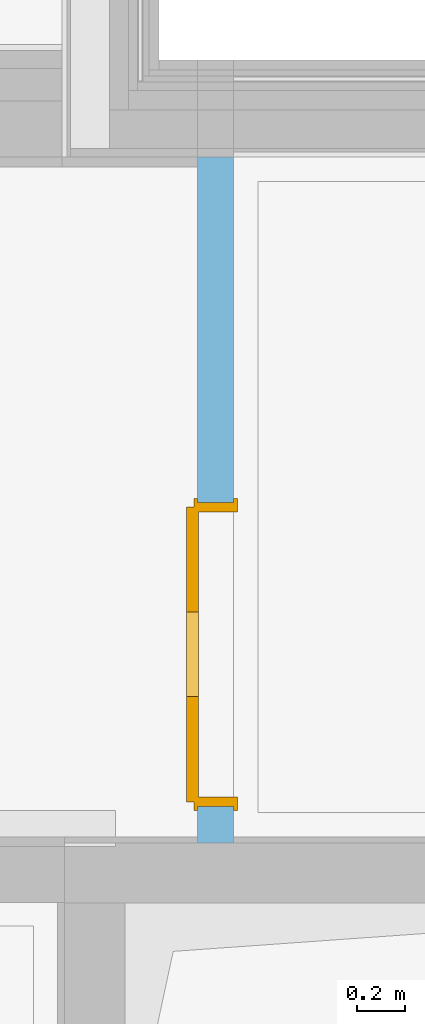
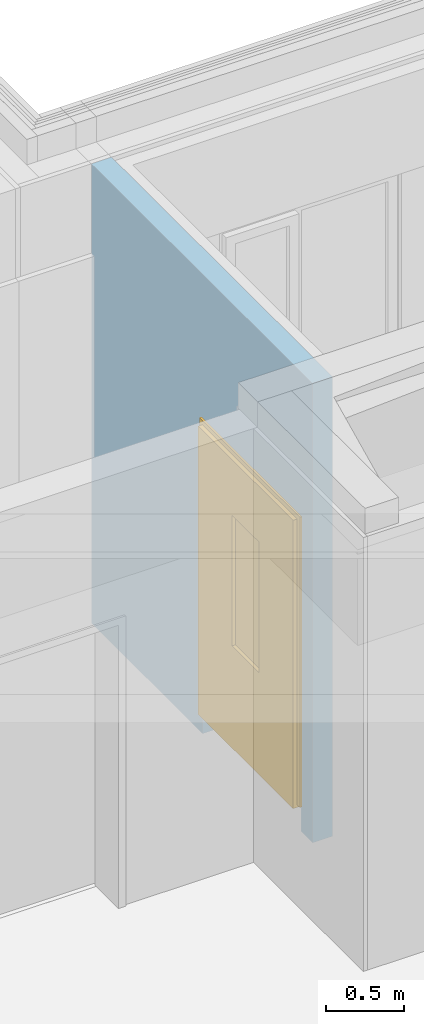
# One storey, part 92 of 207: 1 door, 1 opening, plus 1 element that does not belong to this part.
"""IFC4 building model written with IfcOpenShell, lengths in metres."""

import ifcopenshell
import ifcopenshell.guid

model = None  # the IFC model being written
_history = None  # IfcOwnerHistory: only IFC2X3 demands one
_inside = {}  # id of a spatial element -> (the spatial element, [elements in it])
_under = {}  # id of a project, library or spatial element -> (it, [spatial elements below it])
_declared = {}  # id of a project -> (the project, [libraries it declares])
_typed = {}  # id of a type object -> (the type object, [elements of that type])
_made_of = {}  # id of a material, layer set ... -> (it, [elements and type objects made of it])


def new_model(schema):
    """Start an empty IFC model of exactly this schema.

    Asked for "IFC4X3", IfcOpenShell would pick the latest addendum, in which some entities
    have other attributes; the version numbers below select the first issue.
    IFC2X3 requires an IfcOwnerHistory on every rooted entity: one is made here for all.
    """
    global model, _history
    if schema == "IFC4X3":
        model = ifcopenshell.file(schema_version=(4, 3, 0, 0))
    else:
        model = ifcopenshell.file(schema=schema)
    _inside.clear()
    _under.clear()
    _declared.clear()
    _typed.clear()
    _made_of.clear()
    _history = None
    if model.schema == "IFC2X3":
        org = make("IfcOrganization", Name="unknown")
        user = make(
            "IfcPersonAndOrganization",
            ThePerson=make("IfcPerson", FamilyName="unknown"),
            TheOrganization=org,
        )
        app = make(
            "IfcApplication",
            ApplicationDeveloper=org,
            Version="unknown",
            ApplicationFullName="unknown",
            ApplicationIdentifier="unknown",
        )
        _history = make(
            "IfcOwnerHistory",
            OwningUser=user,
            OwningApplication=app,
            ChangeAction="ADDED",
            CreationDate=0,
        )
    return model


def make(cls, **values):
    """One entity of the class cls with the attributes given. An attribute that is None is left unset."""
    return model.create_entity(
        cls, **{name: value for name, value in values.items() if value is not None}
    )


def entity(cls, *values):
    """Any entity or typed value of the class cls, its attributes in the order of the schema. None: left unset."""
    e = model.create_entity(cls)
    for i, value in enumerate(values):
        if value is not None:
            e[i] = value
    return e


def rooted(cls, **values):
    """An entity with a GlobalId (a new one), such as an element, a storey or a relation."""
    return make(cls, GlobalId=ifcopenshell.guid.new(), OwnerHistory=_history, **values)


def si_unit(unit_type, name, prefix=None):
    """IfcSIUnit, for example si_unit("LENGTHUNIT", "METRE", prefix="MILLI")."""
    return make("IfcSIUnit", UnitType=unit_type, Prefix=prefix, Name=name)


def converted_unit(unit_type, name, factor, base, dimensions=None, offset=None):
    """IfcConversionBasedUnit, such as the inch: factor (a typed value) times the base unit."""
    return make(
        "IfcConversionBasedUnit"
        if offset is None
        else "IfcConversionBasedUnitWithOffset",
        ConversionOffset=offset,
        Dimensions=None
        if dimensions is None
        else entity("IfcDimensionalExponents", *dimensions),
        UnitType=unit_type,
        Name=name,
        ConversionFactor=make(
            "IfcMeasureWithUnit", ValueComponent=factor, UnitComponent=base
        ),
    )


def derived_unit(unit_type, elements):
    """IfcDerivedUnit: a product of units, each with its exponent."""
    return make(
        "IfcDerivedUnit",
        Elements=[
            make("IfcDerivedUnitElement", Unit=unit, Exponent=power)
            for unit, power in elements
        ],
        UnitType=unit_type,
    )


def assignment(units):
    """IfcUnitAssignment: the units of a project."""
    return None if units is None else make("IfcUnitAssignment", Units=units)


def point(xyz):
    """IfcCartesianPoint."""
    return None if xyz is None else make("IfcCartesianPoint", Coordinates=xyz)


def direction(xyz):
    """IfcDirection."""
    return None if xyz is None else make("IfcDirection", DirectionRatios=xyz)


def frame(location, z_axis=None, x_axis=None):
    """IfcAxis2Placement3D, a coordinate frame: its origin and axes. An axis left out is left unset."""
    return make(
        "IfcAxis2Placement3D",
        Location=point(location),
        Axis=direction(z_axis),
        RefDirection=direction(x_axis),
    )


def frame_2d(location, x_axis=None):
    """IfcAxis2Placement2D, a coordinate frame in the plane: its origin and x axis."""
    return make(
        "IfcAxis2Placement2D", Location=point(location), RefDirection=direction(x_axis)
    )


def origin():
    """The frame at (0, 0, 0) with its axes left unset."""
    return frame((0.0, 0.0, 0.0))


def origin_with_axes():
    """The frame at (0, 0, 0) with the z axis (0, 0, 1) and the x axis (1, 0, 0) written out."""
    return frame((0.0, 0.0, 0.0), z_axis=(0.0, 0.0, 1.0), x_axis=(1.0, 0.0, 0.0))


def place(relative_to, where):
    """IfcLocalPlacement: puts the frame where relative to a parent placement (None: the world)."""
    return make(
        "IfcLocalPlacement", PlacementRelTo=relative_to, RelativePlacement=where
    )


def context(
    kind, dimensions, precision=None, world=None, true_north=None, identifier=None
):
    """IfcGeometricRepresentationContext, for example the 3D "Model" context."""
    return make(
        "IfcGeometricRepresentationContext",
        ContextIdentifier=identifier,
        ContextType=kind,
        CoordinateSpaceDimension=dimensions,
        Precision=precision,
        WorldCoordinateSystem=world,
        TrueNorth=true_north,
    )


def subcontext(parent, identifier, kind, view, scale=None):
    """IfcGeometricRepresentationSubContext, for example "Body" below "Model"."""
    return make(
        "IfcGeometricRepresentationSubContext",
        ContextIdentifier=identifier,
        ContextType=kind,
        ParentContext=parent,
        TargetScale=scale,
        TargetView=view,
    )


def project(units=None, contexts=None):
    """IfcProject with its units and contexts."""
    return rooted(
        "IfcProject",
        Name="project",
        RepresentationContexts=contexts,
        UnitsInContext=assignment(units),
    )


def spatial(cls, under=None, at=None, **own):
    """A site, building, storey or space (cls), placed at a placement, below another one or the project."""
    s = rooted(cls, ObjectPlacement=at, **own)
    if under is not None:
        _under.setdefault(under.id(), (under, []))[1].append(s)
    return s


def polyline(points):
    """IfcPolyline through the points."""
    return make("IfcPolyline", Points=[point(p) for p in points])


def profile(cls, at=None, kind="AREA", **sizes):
    """A parametric profile (cls). Its sizes go by their IFC names, for example OverallWidth=200.0."""
    return make(cls, ProfileType=kind, Position=at, **sizes)


def rectangle(**sizes):
    """IfcRectangleProfileDef."""
    return profile("IfcRectangleProfileDef", **sizes)


def outline(outer, holes=None, kind="AREA"):
    """IfcArbitraryClosedProfileDef: a profile drawn as a closed curve; with holes, ...WithVoids."""
    if holes is None:
        return make("IfcArbitraryClosedProfileDef", ProfileType=kind, OuterCurve=outer)
    return make(
        "IfcArbitraryProfileDefWithVoids",
        ProfileType=kind,
        OuterCurve=outer,
        InnerCurves=holes,
    )


def extrude(swept, where, along, depth):
    """IfcExtrudedAreaSolid: the profile swept, set in the frame where, extruded along a direction by depth."""
    return make(
        "IfcExtrudedAreaSolid",
        SweptArea=swept,
        Position=where,
        ExtrudedDirection=direction(along),
        Depth=depth,
    )


def faces_of(points, faces, orient=None, outer=None):
    """IfcFace entities. A face is a list of loops; a loop is a list of indices into points, from 0.

    orient and outer hold one flag for each loop. By default every Orientation is true, the
    first loop of a face is its IfcFaceOuterBound and the others are IfcFaceBound.
    """
    made = []
    for i, loops in enumerate(faces):
        bounds = []
        for j, loop in enumerate(loops):
            is_outer = j == 0 if outer is None else outer[i][j]
            bounds.append(
                make(
                    "IfcFaceOuterBound" if is_outer else "IfcFaceBound",
                    Bound=make("IfcPolyLoop", Polygon=[points[k] for k in loop]),
                    Orientation=True if orient is None else orient[i][j],
                )
            )
        made.append(make("IfcFace", Bounds=bounds))
    return made


def closed_shell(faces, orient=None, outer=None):
    """The faces of one IfcClosedShell. faceted_brep and surface_model build it on their shared points."""
    return ("IfcClosedShell", faces, orient, outer)


def open_shell(faces, orient=None, outer=None):
    """The faces of one IfcOpenShell. surface_model builds it on its shared points."""
    return ("IfcOpenShell", faces, orient, outer)


def faceted_brep(points, faces, orient=None, outer=None, voids=None):
    """IfcFacetedBrep: a solid bounded by flat faces; with voids (closed shells), ...WithVoids."""
    shared = [point(p) for p in points]
    hull = make("IfcClosedShell", CfsFaces=faces_of(shared, faces, orient, outer))
    if voids is None:
        return make("IfcFacetedBrep", Outer=hull)
    return make(
        "IfcFacetedBrepWithVoids",
        Outer=hull,
        Voids=[
            make(cls, CfsFaces=faces_of(shared, fs, o, b)) for cls, fs, o, b in voids
        ],
    )


def surface_model(cls, points, shells):
    """IfcFaceBasedSurfaceModel or IfcShellBasedSurfaceModel (cls): surfaces that need not close."""
    shared = [point(p) for p in points]
    made = [make(c, CfsFaces=faces_of(shared, fs, o, b)) for c, fs, o, b in shells]
    if cls == "IfcFaceBasedSurfaceModel":
        return make(cls, FbsmFaces=made)
    return make(cls, SbsmBoundary=made)


def shape(context_of_items, identifier, shape_type, items):
    """IfcShapeRepresentation: the items that make up one representation, for example the "Body"."""
    return make(
        "IfcShapeRepresentation",
        ContextOfItems=context_of_items,
        RepresentationIdentifier=identifier,
        RepresentationType=shape_type,
        Items=items,
    )


def source(mapping_origin, context_of_items, identifier, shape_type, items):
    """IfcRepresentationMap: a shape defined once, which mapped items show again and again."""
    return make(
        "IfcRepresentationMap",
        MappingOrigin=mapping_origin,
        MappedRepresentation=shape(context_of_items, identifier, shape_type, items),
    )


def transform(
    local_origin,
    x_axis=None,
    y_axis=None,
    z_axis=None,
    scale=None,
    scale2=None,
    scale3=None,
    uniform=True,
):
    """IfcCartesianTransformationOperator3D, or its non-uniform kind. x_axis, y_axis, z_axis: its Axis1, 2, 3."""
    if uniform:
        return make(
            "IfcCartesianTransformationOperator3D",
            Axis1=direction(x_axis),
            Axis2=direction(y_axis),
            LocalOrigin=point(local_origin),
            Scale=scale,
            Axis3=direction(z_axis),
        )
    return make(
        "IfcCartesianTransformationOperator3DnonUniform",
        Axis1=direction(x_axis),
        Axis2=direction(y_axis),
        LocalOrigin=point(local_origin),
        Scale=scale,
        Axis3=direction(z_axis),
        Scale2=scale2,
        Scale3=scale3,
    )


def mapped(mapping_source, mapping_target):
    """IfcMappedItem: shows the shape of a source again, moved by a transform."""
    return make(
        "IfcMappedItem", MappingSource=mapping_source, MappingTarget=mapping_target
    )


def material(Name=None, Category=None):
    """IfcMaterial."""
    return make("IfcMaterial", Name=Name, Category=Category)


def made_of(thing, what):
    """Note that an element or type object is made of a material, layer set ...; save() writes the relation."""
    if what is not None:
        _made_of.setdefault(what.id(), (what, []))[1].append(thing)
    return thing


def type_object(cls, material=None, **own):
    """A type object (cls), such as IfcWallType, which elements share."""
    return made_of(rooted(cls, **own), material)


def element(
    cls,
    number,
    at=None,
    inside=None,
    cuts=None,
    type_object=None,
    material=None,
    context=None,
    identifier="Body",
    shape_type=None,
    held_by="IfcProductDefinitionShape",
    body=None,
    shapes=None,
    **own,
):
    """One element of the class cls, such as IfcWall. Its Tag is "e" and its number.

    at: its placement. inside: the storey or other place that contains it. cuts: it is an
    opening in that element (IfcRelVoidsElement). A single representation is given by context,
    identifier, shape_type and body (its items); several are given by shapes. held_by: the class
    of the entity that holds the representations. save() writes the other relations.
    """
    e = rooted(cls, Tag="e%d" % number, ObjectPlacement=at, **own)
    if body is not None:
        shapes = [shape(context, identifier, shape_type, body)]
    if shapes is not None:
        e.Representation = make(held_by, Representations=shapes)
    if inside is not None:
        _inside.setdefault(inside.id(), (inside, []))[1].append(e)
    if cuts is not None:
        rooted(
            "IfcRelVoidsElement", RelatingBuildingElement=cuts, RelatedOpeningElement=e
        )
    if type_object is not None:
        _typed.setdefault(type_object.id(), (type_object, []))[1].append(e)
    return made_of(e, material)


def fill(opening, filler):
    """IfcRelFillsElement: the door or window that sits in an opening."""
    return rooted(
        "IfcRelFillsElement",
        RelatingOpeningElement=opening,
        RelatedBuildingElement=filler,
    )


def aggregate(whole, parts):
    """IfcRelAggregates: a whole, such as a stair, and the parts it consists of."""
    return rooted("IfcRelAggregates", RelatingObject=whole, RelatedObjects=parts)


def save(model, path):
    """Write the relations noted so far, then the file.

    IfcRelAggregates (storeys below a building ...), IfcRelContainedInSpatialStructure (elements
    in a storey), IfcRelDefinesByType, IfcRelAssociatesMaterial and IfcRelDeclares: one each for
    every whole, place, type object, material and project.
    """
    for whole, parts in _under.values():
        aggregate(whole, parts)
    for where, things in _inside.values():
        rooted(
            "IfcRelContainedInSpatialStructure",
            RelatedElements=things,
            RelatingStructure=where,
        )
    for kind, things in _typed.values():
        rooted("IfcRelDefinesByType", RelatedObjects=things, RelatingType=kind)
    for what, things in _made_of.values():
        rooted("IfcRelAssociatesMaterial", RelatedObjects=things, RelatingMaterial=what)
    for by, libraries in _declared.values():
        rooted("IfcRelDeclares", RelatingContext=by, RelatedDefinitions=libraries)
    model.write(path)


model = new_model("IFC4")

# Units and contexts
model_context = context("Model", 3, precision=1e-05, world=origin())
body_context = subcontext(model_context, "Body", "Model", "MODEL_VIEW")
ifc_project = project(units=[si_unit("LENGTHUNIT", "METRE"), si_unit("AREAUNIT", "SQUARE_METRE"), si_unit("VOLUMEUNIT", "CUBIC_METRE"), si_unit("MASSUNIT", "GRAM", prefix="KILO"), converted_unit("PLANEANGLEUNIT", "DEGREE", entity("IfcPlaneAngleMeasure", 0.0174532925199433), si_unit("PLANEANGLEUNIT", "RADIAN"), dimensions=[0, 0, 0, 0, 0, 0, 0]), derived_unit("THERMALTRANSMITTANCEUNIT", [(si_unit("POWERUNIT", "WATT"), 1), (si_unit("THERMODYNAMICTEMPERATUREUNIT", "KELVIN"), -1), (si_unit("LENGTHUNIT", "METRE"), -2)]), derived_unit("VOLUMETRICFLOWRATEUNIT", [(si_unit("LENGTHUNIT", "METRE"), 3), (converted_unit("TIMEUNIT", "hour", entity("IfcTimeMeasure", 3600.0), si_unit("TIMEUNIT", "SECOND"), dimensions=[0, 0, 1, 0, 0, 0, 0]), -1), (si_unit("LENGTHUNIT", "METRE"), -1)])], contexts=[model_context])

# Site, building, storey
site_placement = place(None, origin())
site = spatial("IfcSite", under=ifc_project, at=site_placement, Name="Psychiatrie Neubau Wunstorf", CompositionType="ELEMENT")
building_placement = place(site_placement, origin())
building = spatial("IfcBuilding", under=site, at=building_placement, Name="Neubau H2 Stationsgebäude", CompositionType="ELEMENT")
storey_placement = place(building_placement, frame((0.0, 0.0, -0.2)))
storey = spatial("IfcBuildingStorey", under=building, at=storey_placement, Name="H2 Ebene 0", CompositionType="ELEMENT", Elevation=-0.2)

# Wall, opening, door
ifc_material_1 = material(Name="WI-LB")
wall_placement = place(storey_placement, frame((44.65, 7.27499969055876, 0.0), z_axis=(0.0, 0.0, 1.0), x_axis=(0.0, 1.0, 0.0)))
wall = element("IfcWall", 1, at=wall_placement, inside=storey, material=ifc_material_1, context=body_context, shape_type="SweptSolid", body=[
    extrude(rectangle(XDim=2.83900000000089, YDim=0.15, at=frame_2d((1.41950000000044, 0.075), x_axis=(1.0, 0.0))), origin_with_axes(), (0.0, 0.0, 1.0), 3.6),
])
opening_placement = place(wall_placement, frame((0.15, 0.0, 0.0), z_axis=(0.0, 1.0, 0.0), x_axis=(0.0, 0.0, 1.0)))
opening = element("IfcOpeningElement", 2, at=opening_placement, cuts=wall, Name="Türöffnung", ObjectType="Opening", context=body_context, shape_type="SweptSolid", body=[
    extrude(outline(polyline([(2.46, 1.26), (2.46, 0.0), (0.0, 0.0), (0.0, 1.26), (2.46, 1.26)])), origin_with_axes(), (0.0, 0.0, 1.0), 0.15),
])
ifc_material_2 = material(Name="TI-1F-UZ-D")
door_type = type_object("IfcDoorType", Name="SMT", OperationType="SINGLE_SWING_RIGHT", ParameterTakesPrecedence=False, PredefinedType="DOOR")
shared_shape_1 = source(origin_with_axes(), body_context, "Body", "Brep", [
    faceted_brep([(1.38499999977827, 0.12499999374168, 0.0), (1.28499999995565, 0.12499999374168, 0.0), (1.28499999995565, 0.0250000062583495, 0.0), (1.38499999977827, 0.0250000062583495, 0.0), (1.38499999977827, 0.0250000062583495, 3.6), (1.28499999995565, 0.0250000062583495, 3.6), (1.28499999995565, 0.12499999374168, 3.6), (1.38499999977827, 0.12499999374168, 3.6)], [[[0, 1, 2, 3]], [[4, 5, 6, 7]], [[3, 4, 7, 0]], [[2, 5, 4, 3]], [[1, 6, 5, 2]], [[0, 7, 6, 1]]], orient=[[False], [False], [False], [False], [False], [False]]),
    faceted_brep([(-0.0249999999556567, 0.12499999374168, 0.0), (-0.124999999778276, 0.12499999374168, 0.0), (-0.124999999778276, 0.0250000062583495, 0.0), (-0.0249999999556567, 0.0250000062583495, 0.0), (-0.0249999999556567, 0.0250000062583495, 3.6), (-0.124999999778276, 0.0250000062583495, 3.6), (-0.124999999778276, 0.12499999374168, 3.6), (-0.0249999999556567, 0.12499999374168, 3.6)], [[[0, 1, 2, 3]], [[4, 5, 6, 7]], [[3, 4, 7, 0]], [[2, 5, 4, 3]], [[1, 6, 5, 2]], [[0, 7, 6, 1]]], orient=[[False], [False], [False], [False], [False], [False]]),
    faceted_brep([(1.28499999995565, 0.12499999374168, 2.485), (-0.0249999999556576, 0.12499999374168, 2.485), (-0.0249999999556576, 0.0250000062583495, 2.485), (1.28499999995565, 0.0250000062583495, 2.485), (1.28499999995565, 0.0250000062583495, 2.585), (-0.0249999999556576, 0.0250000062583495, 2.585), (-0.0249999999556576, 0.12499999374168, 2.585), (1.28499999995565, 0.12499999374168, 2.585)], [[[0, 1, 2, 3]], [[4, 5, 6, 7]], [[3, 4, 7, 0]], [[2, 5, 4, 3]], [[1, 6, 5, 2]], [[0, 7, 6, 1]]], orient=[[False], [False], [False], [False], [False], [False]]),
])
shared_shape_2 = source(origin_with_axes(), body_context, "Body", "SurfaceModel", [
    surface_model("IfcShellBasedSurfaceModel", [(0.0, -0.0149999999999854, 2.46), (0.0399999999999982, -0.0149999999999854, 2.46), (0.0399999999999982, -0.0149999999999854, 0.2), (0.0, -0.0149999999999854, 0.2), (0.0, 0.165000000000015, 0.2), (0.0399999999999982, 0.165000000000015, 0.2), (0.0399999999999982, 0.165000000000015, 2.46), (0.0, 0.165000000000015, 2.46)], [closed_shell([[[0, 1, 2, 3]], [[4, 5, 6, 7]], [[3, 4, 7, 0]], [[2, 5, 4, 3]], [[1, 6, 5, 2]], [[0, 7, 6, 1]]], orient=[[False], [False], [False], [False], [False], [False]])]),
    surface_model("IfcShellBasedSurfaceModel", [(0.0, -0.0149999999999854, 2.475), (0.0, -0.0149999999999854, 0.2), (-0.0150000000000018, -0.0149999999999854, 0.2), (-0.0150000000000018, -0.0149999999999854, 2.475), (0.0, 0.0, 0.2), (0.0, 0.0, 2.475), (-0.0150000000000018, 0.0, 2.475), (-0.0150000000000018, 0.0, 0.2)], [closed_shell([[[0, 1, 2, 3]], [[4, 5, 6, 7]], [[1, 0, 5, 4]], [[2, 1, 4, 7]], [[3, 2, 7, 6]], [[0, 3, 6, 5]]], orient=[[False], [False], [False], [False], [False], [False]])]),
    surface_model("IfcShellBasedSurfaceModel", [(0.0, 0.150000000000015, 2.475), (0.0, 0.150000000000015, 0.2), (-0.0150000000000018, 0.150000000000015, 0.2), (-0.0150000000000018, 0.150000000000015, 2.475), (0.0, 0.165000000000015, 0.2), (0.0, 0.165000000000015, 2.475), (-0.0150000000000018, 0.165000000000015, 2.475), (-0.0150000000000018, 0.165000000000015, 0.2)], [closed_shell([[[0, 1, 2, 3]], [[4, 5, 6, 7]], [[1, 0, 5, 4]], [[2, 1, 4, 7]], [[3, 2, 7, 6]], [[0, 3, 6, 5]]], orient=[[False], [False], [False], [False], [False], [False]])]),
    surface_model("IfcShellBasedSurfaceModel", [(1.22, -0.0149999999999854, 2.46), (1.26, -0.0149999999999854, 2.46), (1.26, -0.0149999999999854, 0.2), (1.22, -0.0149999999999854, 0.2), (1.22, 0.165000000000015, 0.2), (1.26, 0.165000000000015, 0.2), (1.26, 0.165000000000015, 2.46), (1.22, 0.165000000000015, 2.46)], [closed_shell([[[0, 1, 2, 3]], [[4, 5, 6, 7]], [[3, 4, 7, 0]], [[2, 5, 4, 3]], [[1, 6, 5, 2]], [[0, 7, 6, 1]]], orient=[[False], [False], [False], [False], [False], [False]])]),
    surface_model("IfcShellBasedSurfaceModel", [(1.26, -0.0149999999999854, 2.475), (1.275, -0.0149999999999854, 2.475), (1.275, -0.0149999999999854, 0.2), (1.26, -0.0149999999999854, 0.2), (1.26, 0.0, 0.2), (1.275, 0.0, 0.2), (1.275, 0.0, 2.475), (1.26, 0.0, 2.475)], [closed_shell([[[0, 1, 2, 3]], [[4, 5, 6, 7]], [[3, 4, 7, 0]], [[2, 5, 4, 3]], [[1, 6, 5, 2]], [[0, 7, 6, 1]]], orient=[[False], [False], [False], [False], [False], [False]])]),
    surface_model("IfcShellBasedSurfaceModel", [(1.26, 0.150000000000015, 2.475), (1.275, 0.150000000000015, 2.475), (1.275, 0.150000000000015, 0.2), (1.26, 0.150000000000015, 0.2), (1.26, 0.165000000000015, 0.2), (1.275, 0.165000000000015, 0.2), (1.275, 0.165000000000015, 2.475), (1.26, 0.165000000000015, 2.475)], [closed_shell([[[0, 1, 2, 3]], [[4, 5, 6, 7]], [[3, 4, 7, 0]], [[2, 5, 4, 3]], [[1, 6, 5, 2]], [[0, 7, 6, 1]]], orient=[[False], [False], [False], [False], [False], [False]])]),
    surface_model("IfcShellBasedSurfaceModel", [(0.0399999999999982, -0.0149999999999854, 2.46), (1.22, -0.0149999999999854, 2.46), (1.22, -0.0149999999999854, 2.42), (0.0399999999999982, -0.0149999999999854, 2.42), (0.0399999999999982, 0.165000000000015, 2.42), (1.22, 0.165000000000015, 2.42), (1.22, 0.165000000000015, 2.46), (0.0399999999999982, 0.165000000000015, 2.46)], [closed_shell([[[0, 1, 2, 3]], [[4, 5, 6, 7]], [[3, 4, 7, 0]], [[2, 5, 4, 3]], [[1, 6, 5, 2]], [[0, 7, 6, 1]]], orient=[[False], [False], [False], [False], [False], [False]])]),
    surface_model("IfcShellBasedSurfaceModel", [(0.0, -0.0149999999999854, 2.475), (1.26, -0.0149999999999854, 2.475), (1.26, -0.0149999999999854, 2.46), (0.0, -0.0149999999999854, 2.46), (0.0, 0.0, 2.46), (1.26, 0.0, 2.46), (1.26, 0.0, 2.475), (0.0, 0.0, 2.475)], [closed_shell([[[0, 1, 2, 3]], [[4, 5, 6, 7]], [[3, 4, 7, 0]], [[2, 5, 4, 3]], [[1, 6, 5, 2]], [[0, 7, 6, 1]]], orient=[[False], [False], [False], [False], [False], [False]])]),
    surface_model("IfcShellBasedSurfaceModel", [(0.0, 0.150000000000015, 2.475), (1.26, 0.150000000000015, 2.475), (1.26, 0.150000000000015, 2.46), (0.0, 0.150000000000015, 2.46), (0.0, 0.165000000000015, 2.46), (1.26, 0.165000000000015, 2.46), (1.26, 0.165000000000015, 2.475), (0.0, 0.165000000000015, 2.475)], [closed_shell([[[0, 1, 2, 3]], [[4, 5, 6, 7]], [[3, 4, 7, 0]], [[2, 5, 4, 3]], [[1, 6, 5, 2]], [[0, 7, 6, 1]]], orient=[[False], [False], [False], [False], [False], [False]])]),
    surface_model("IfcShellBasedSurfaceModel", [(0.0199999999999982, 0.145000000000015, 2.44), (0.454999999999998, 0.145000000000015, 2.44), (0.454999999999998, 0.145000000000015, 0.18), (0.0199999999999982, 0.145000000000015, 0.18), (0.0199999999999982, 0.195000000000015, 0.18), (0.454999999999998, 0.195000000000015, 0.18), (0.454999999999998, 0.195000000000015, 2.44), (0.0199999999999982, 0.195000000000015, 2.44)], [closed_shell([[[0, 1, 2, 3]], [[4, 5, 6, 7]], [[3, 4, 7, 0]], [[2, 5, 4, 3]], [[1, 6, 5, 2]], [[0, 7, 6, 1]]], orient=[[False], [False], [False], [False], [False], [False]])]),
    surface_model("IfcShellBasedSurfaceModel", [(0.804999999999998, 0.145000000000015, 2.44), (1.24, 0.145000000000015, 2.44), (1.24, 0.145000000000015, 0.18), (0.804999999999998, 0.145000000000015, 0.18), (0.804999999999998, 0.195000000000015, 0.18), (1.24, 0.195000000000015, 0.18), (1.24, 0.195000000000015, 2.44), (0.804999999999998, 0.195000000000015, 2.44)], [closed_shell([[[0, 1, 2, 3]], [[4, 5, 6, 7]], [[3, 4, 7, 0]], [[2, 5, 4, 3]], [[1, 6, 5, 2]], [[0, 7, 6, 1]]], orient=[[False], [False], [False], [False], [False], [False]])]),
    surface_model("IfcShellBasedSurfaceModel", [(0.454999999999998, 0.145000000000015, 0.98), (0.804999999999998, 0.145000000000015, 0.98), (0.804999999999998, 0.145000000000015, 0.18), (0.454999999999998, 0.145000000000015, 0.18), (0.454999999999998, 0.195000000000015, 0.18), (0.804999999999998, 0.195000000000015, 0.18), (0.804999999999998, 0.195000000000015, 0.98), (0.454999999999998, 0.195000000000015, 0.98)], [closed_shell([[[0, 1, 2, 3]], [[4, 5, 6, 7]], [[3, 4, 7, 0]], [[2, 5, 4, 3]], [[1, 6, 5, 2]], [[0, 7, 6, 1]]], orient=[[False], [False], [False], [False], [False], [False]])]),
    surface_model("IfcShellBasedSurfaceModel", [(0.454999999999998, 0.145000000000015, 2.44), (0.804999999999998, 0.145000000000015, 2.44), (0.804999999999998, 0.145000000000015, 2.005), (0.454999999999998, 0.145000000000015, 2.005), (0.454999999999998, 0.195000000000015, 2.005), (0.804999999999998, 0.195000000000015, 2.005), (0.804999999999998, 0.195000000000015, 2.44), (0.454999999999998, 0.195000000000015, 2.44)], [closed_shell([[[0, 1, 2, 3]], [[4, 5, 6, 7]], [[3, 4, 7, 0]], [[2, 5, 4, 3]], [[1, 6, 5, 2]], [[0, 7, 6, 1]]], orient=[[False], [False], [False], [False], [False], [False]])]),
    surface_model("IfcShellBasedSurfaceModel", [(0.454999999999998, 0.170000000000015, 0.98), (0.454999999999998, 0.170000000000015, 2.005), (0.804999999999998, 0.170000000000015, 2.005), (0.804999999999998, 0.170000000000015, 0.98)], [open_shell([[[0, 1, 2, 3]]], orient=[[False]])]),
])
door_placement = place(opening_placement, frame((0.0, 0.0, 0.0), z_axis=(1.0, 0.0, 0.0), x_axis=(0.0, 1.0, 0.0)))
door = element("IfcDoor", 3, at=door_placement, inside=storey, type_object=door_type, material=ifc_material_2, Name="SMT", OverallHeight=2.46, OverallWidth=1.26, context=body_context, shape_type="MappedRepresentation", body=[
    mapped(shared_shape_1, transform((0.0, 0.0, 0.0), x_axis=(1.0, 0.0, 0.0), y_axis=(0.0, 1.0, 0.0), z_axis=(0.0, 0.0, 1.0), scale=1.0)),
    mapped(shared_shape_2, transform((0.0, 0.0, 0.0), x_axis=(1.0, 0.0, 0.0), y_axis=(0.0, 1.0, 0.0), z_axis=(0.0, 0.0, 1.0), scale=1.0)),
])
fill(opening, door)

save(model, "model.ifc")
